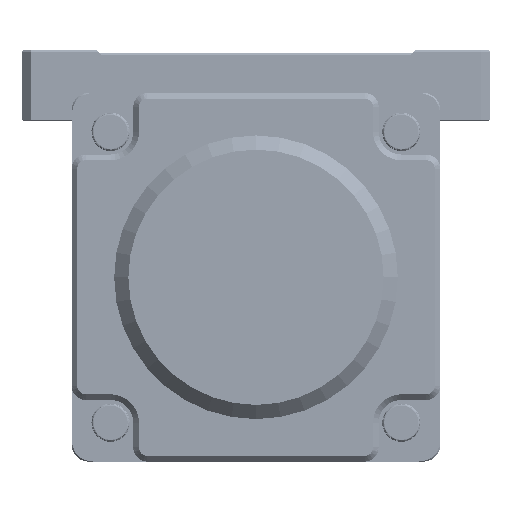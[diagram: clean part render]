
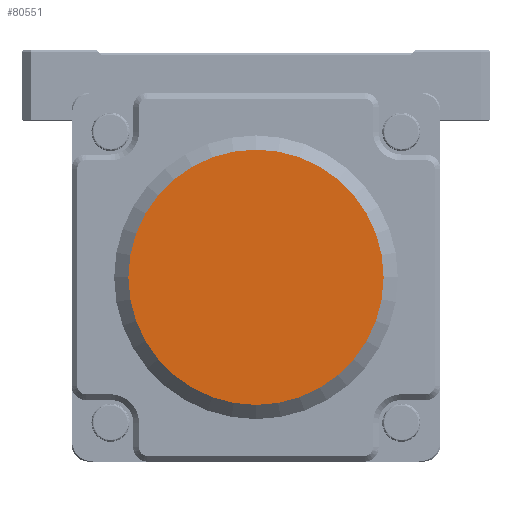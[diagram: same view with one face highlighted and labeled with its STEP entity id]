
A CAD part, front view. The second image highlights one B-rep face of the part: STEP entity #80551.
In plain terms, the highlighted planar face has unit normal (0, -1, 0) as drawn and (0, 1, 0) by its records, which use the part's own axes.
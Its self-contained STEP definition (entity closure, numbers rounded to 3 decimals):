
#78629=CARTESIAN_POINT('',(0.,166.,0.));
#78630=DIRECTION('',(0.,1.,0.));
#78631=DIRECTION('',(-1.,0.,0.));
#78632=AXIS2_PLACEMENT_3D('',#78629,#78630,#78631);
#78634=CARTESIAN_POINT('',(0.,166.,0.));
#78635=DIRECTION('',(0.,1.,0.));
#78636=DIRECTION('',(1.,0.,0.));
#78637=AXIS2_PLACEMENT_3D('',#78634,#78635,#78636);
#79496=CARTESIAN_POINT('',(-45.,166.,0.));
#79497=CARTESIAN_POINT('',(45.,166.,0.));
#79498=VERTEX_POINT('',#79496);
#79499=VERTEX_POINT('',#79497);
#80541=CARTESIAN_POINT('',(0.,166.,0.));
#80542=DIRECTION('',(0.,1.,0.));
#80543=DIRECTION('',(1.,0.,0.));
#80544=AXIS2_PLACEMENT_3D('',#80541,#80542,#80543);
#80545=PLANE('',#80544);
#80547=ORIENTED_EDGE('',*,*,#80546,.F.);
#80548=ORIENTED_EDGE('',*,*,#80531,.F.);
#80549=EDGE_LOOP('',(#80547,#80548));
#80550=FACE_OUTER_BOUND('',#80549,.F.);
#80551=ADVANCED_FACE('',(#80550),#80545,.T.);
#78633=CIRCLE('',#78632,45.);
#78638=CIRCLE('',#78637,45.);
#80531=EDGE_CURVE('',#79499,#79498,#78638,.T.);
#80546=EDGE_CURVE('',#79498,#79499,#78633,.T.);
